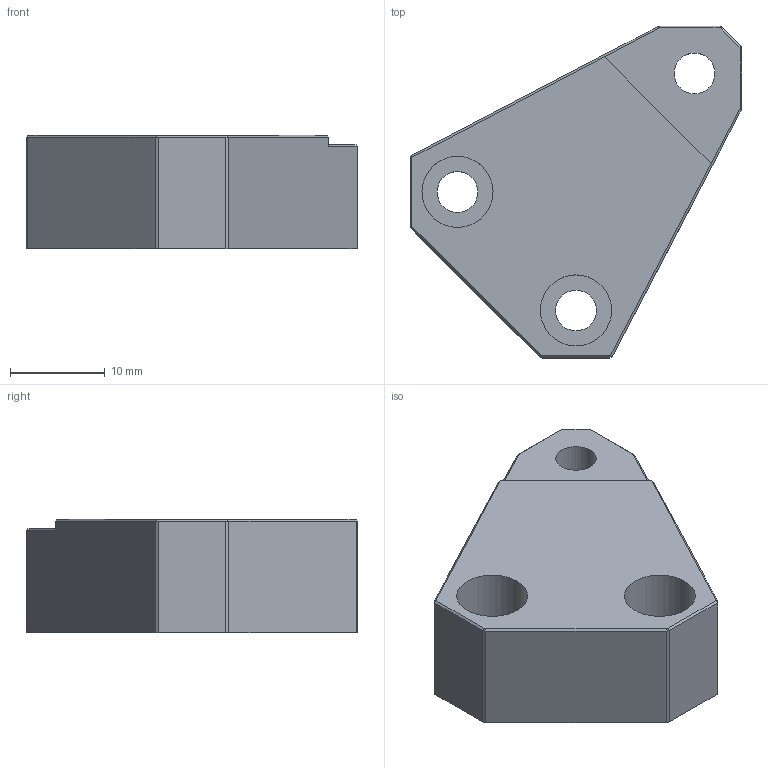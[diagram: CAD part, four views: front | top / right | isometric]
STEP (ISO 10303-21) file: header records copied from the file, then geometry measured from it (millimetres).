
FILE_DESCRIPTION(/* description */ (''),/* implementation_level */ '2;1');
FILE_NAME(/* name */ '',/* time_stamp */ '2025-12-08T17:31:05+08:00',/* author */ ('Q'),/* organization */ (''),/* preprocessor_version */ 'ST-DEVELOPER v20',/* originating_system */ 'Autodesk Inventor 2025',/* authorisation */ '');
FILE_SCHEMA (('AUTOMOTIVE_DESIGN { 1 0 10303 214 3 1 1 }'));
Length unit declared in the file: millimetre
Products named in the file (1): 45度反射镜底座
Bounding box: 35 x 35 x 12 mm (x, y, z)
Volume: 7942.7 mm3; surface area: 3420.5 mm2
Topology: 1 solids, 1 shells, 47 faces, 102 edges, 60 vertices
Faces by surface type: plane 41, cylinder 6
Full cylindrical faces by diameter (mm): 4.3 x3, 7.5 x3
Entity records: 1291 total; most frequent: DIRECTION 210, CARTESIAN_POINT 210, ORIENTED_EDGE 204, EDGE_CURVE 102, LINE 90, VECTOR 90, VERTEX_POINT 60, AXIS2_PLACEMENT_3D 60
